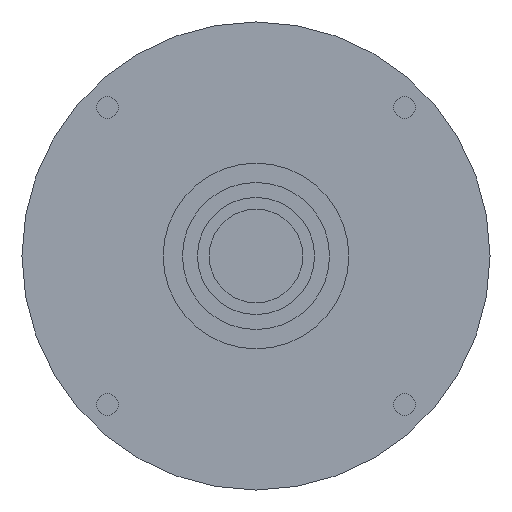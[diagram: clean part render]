
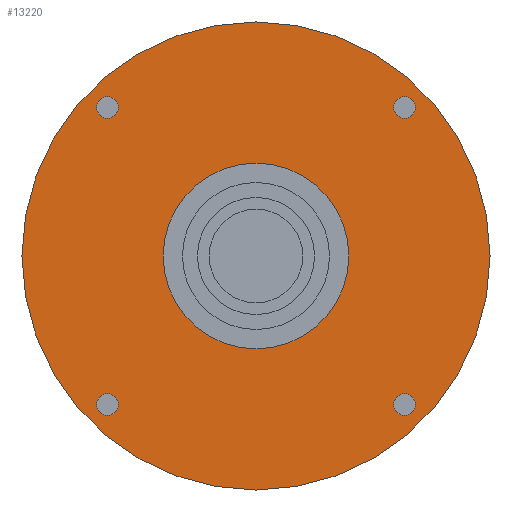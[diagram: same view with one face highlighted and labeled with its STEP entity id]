
A CAD part, left-side view. The second image highlights one B-rep face of the part: STEP entity #13220.
In plain terms, the highlighted planar face has unit normal (-1, 0, 0) as drawn and (0, 0, -1) by its records, which use the part's own axes.
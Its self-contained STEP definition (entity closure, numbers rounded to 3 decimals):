
#12100=CARTESIAN_POINT('',(-44.449,-41.199,-84.701))
;
#12110=VERTEX_POINT('',#12100);
#12140=CARTESIAN_POINT('',(-44.449,-44.449,-84.701))
;
#12150=DIRECTION('',(0.,0.,-1.));
#12160=DIRECTION('',(0.,-1.,0.));
#12170=AXIS2_PLACEMENT_3D('',#12140,#12150,#12160);
#12180=CIRCLE('',#12170,3.25);
#12190=CARTESIAN_POINT('',(-44.449,-47.699,-84.701))
;
#12200=VERTEX_POINT('',#12190);
#12210=EDGE_CURVE('',#12200,#12110,#12180,.T.);
#12330=CARTESIAN_POINT('',(0.,0.,
-84.701));
#12340=DIRECTION('',(0.,0.,-1.));
#12350=DIRECTION('',(1.,0.,0.));
#12360=AXIS2_PLACEMENT_3D('',#12330,#12340,#12350);
#12370=PLANE('',#12360);
#12380=CARTESIAN_POINT('',(44.449,44.449,-84.701));
#12390=DIRECTION('',(0.,0.,-1.));
#12400=DIRECTION('',(0.,1.,0.));
#12410=AXIS2_PLACEMENT_3D('',#12380,#12390,#12400);
#12420=CIRCLE('',#12410,3.25);
#12430=CARTESIAN_POINT('',(44.449,47.699,-84.701));
#12440=VERTEX_POINT('',#12430);
#12450=CARTESIAN_POINT('',(44.449,41.199,-84.701));
#12460=VERTEX_POINT('',#12450);
#12470=EDGE_CURVE('',#12440,#12460,#12420,.T.);
#12480=ORIENTED_EDGE('',*,*,#12470,.F.);
#12490=EDGE_CURVE('',#12460,#12440,#12420,.T.);
#12500=ORIENTED_EDGE('',*,*,#12490,.F.);
#12510=EDGE_LOOP('',(#12500,#12480));
#12520=FACE_BOUND('',#12510,.T.);
#12530=CARTESIAN_POINT('',(-44.449,44.449,-84.701));
#12540=DIRECTION('',(0.,0.,-1.));
#12550=DIRECTION('',(-1.,0.,0.));
#12560=AXIS2_PLACEMENT_3D('',#12530,#12540,#12550);
#12570=CIRCLE('',#12560,3.25);
#12580=CARTESIAN_POINT('',(-47.699,44.449,-84.701));
#12590=VERTEX_POINT('',#12580);
#12600=CARTESIAN_POINT('',(-41.199,44.449,-84.701));
#12610=VERTEX_POINT('',#12600);
#12620=EDGE_CURVE('',#12590,#12610,#12570,.T.);
#12630=ORIENTED_EDGE('',*,*,#12620,.F.);
#12640=EDGE_CURVE('',#12610,#12590,#12570,.T.);
#12650=ORIENTED_EDGE('',*,*,#12640,.F.);
#12660=EDGE_LOOP('',(#12650,#12630));
#12670=FACE_BOUND('',#12660,.T.);
#12680=ORIENTED_EDGE('',*,*,#12210,.F.);
#12690=EDGE_CURVE('',#12110,#12200,#12180,.T.);
#12700=ORIENTED_EDGE('',*,*,#12690,.F.);
#12710=EDGE_LOOP('',(#12700,#12680));
#12720=FACE_BOUND('',#12710,.T.);
#12730=CARTESIAN_POINT('',(0.,0.,
-84.701));
#12740=DIRECTION('',(0.,0.,-1.));
#12750=DIRECTION('',(0.,1.,0.));
#12760=AXIS2_PLACEMENT_3D('',#12730,#12740,#12750);
#12770=CIRCLE('',#12760,27.76);
#12780=CARTESIAN_POINT('',(0.,27.76,-84.701));
#12790=VERTEX_POINT('',#12780);
#12800=CARTESIAN_POINT('',(0.,-27.76,-84.701));
#12810=VERTEX_POINT('',#12800);
#12820=EDGE_CURVE('',#12790,#12810,#12770,.T.);
#12830=ORIENTED_EDGE('',*,*,#12820,.F.);
#12840=EDGE_CURVE('',#12810,#12790,#12770,.T.);
#12850=ORIENTED_EDGE('',*,*,#12840,.F.);
#12860=EDGE_LOOP('',(#12850,#12830));
#12870=FACE_BOUND('',#12860,.T.);
#12880=CARTESIAN_POINT('',(44.449,-44.449,-84.701));
#12890=DIRECTION('',(0.,0.,-1.));
#12900=DIRECTION('',(1.,0.,0.));
#12910=AXIS2_PLACEMENT_3D('',#12880,#12890,#12900);
#12920=CIRCLE('',#12910,3.25);
#12930=CARTESIAN_POINT('',(47.699,-44.449,-84.701));
#12940=VERTEX_POINT('',#12930);
#12950=CARTESIAN_POINT('',(41.199,-44.449,-84.701));
#12960=VERTEX_POINT('',#12950);
#12970=EDGE_CURVE('',#12940,#12960,#12920,.T.);
#12980=ORIENTED_EDGE('',*,*,#12970,.F.);
#12990=EDGE_CURVE('',#12960,#12940,#12920,.T.);
#13000=ORIENTED_EDGE('',*,*,#12990,.F.);
#13010=EDGE_LOOP('',(#13000,#12980));
#13020=FACE_BOUND('',#13010,.T.);
#13030=CARTESIAN_POINT('',(0.,0.,
-84.701));
#13040=DIRECTION('',(0.,0.,-1.));
#13050=DIRECTION('',(0.,-1.,0.));
#13060=AXIS2_PLACEMENT_3D('',#13030,#13040,#13050);
#13070=CIRCLE('',#13060,70.);
#13080=CARTESIAN_POINT('',(-70.,0.,-84.701));
#13090=VERTEX_POINT('',#13080);
#13100=CARTESIAN_POINT('',(70.,0.,-84.701));
#13110=VERTEX_POINT('',#13100);
#13120=EDGE_CURVE('',#13090,#13110,#13070,.T.);
#13130=ORIENTED_EDGE('',*,*,#13120,.T.);
#13140=CARTESIAN_POINT('',(0.,-70.,-84.701));
#13150=VERTEX_POINT('',#13140);
#13160=EDGE_CURVE('',#13150,#13090,#13070,.T.);
#13170=ORIENTED_EDGE('',*,*,#13160,.T.);
#13180=EDGE_CURVE('',#13110,#13150,#13070,.T.);
#13190=ORIENTED_EDGE('',*,*,#13180,.T.);
#13200=EDGE_LOOP('',(#13190,#13170,#13130));
#13210=FACE_OUTER_BOUND('',#13200,.T.);
#13220=ADVANCED_FACE('',(#12520,#12670,#12720,#12870,#13020,#13210),
#12370,.T.);
